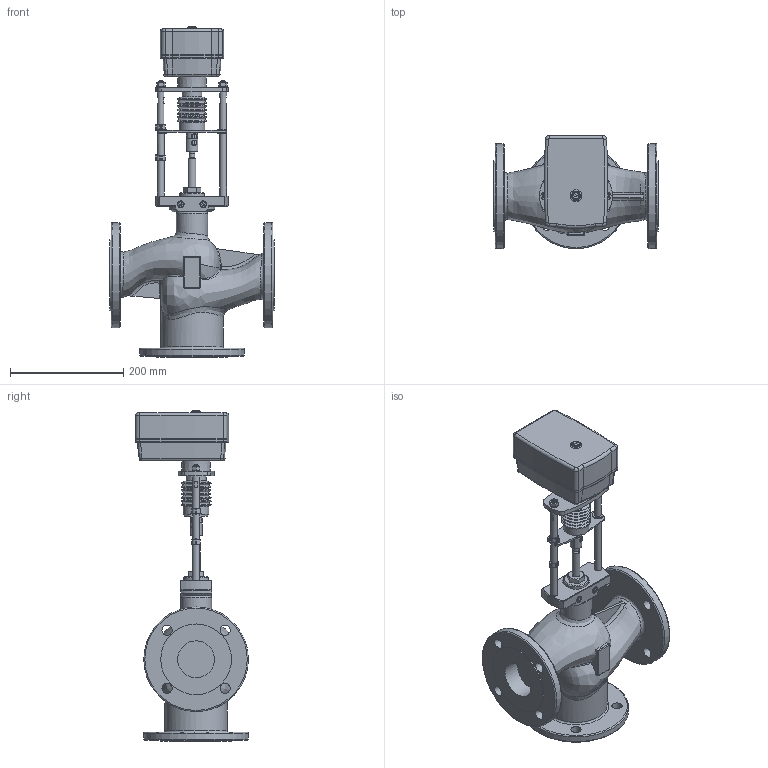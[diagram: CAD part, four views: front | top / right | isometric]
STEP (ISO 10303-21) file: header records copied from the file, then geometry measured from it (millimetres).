
FILE_DESCRIPTION(/* description */ ('Unknown'),/* implementation_level */ '2;1');
FILE_NAME(/* name */ 'TRV-3K-65-63-110',/* time_stamp */ '2023-01-16T14:06:06+03:00',/* author */ ('Unknown'),/* organization */ ('Unknown'),/* preprocessor_version */ 'ST-DEVELOPER v16.7',/* originating_system */ 'DEX',/* authorisation */ $);
FILE_SCHEMA (('AUTOMOTIVE_DESIGN {1 0 10303 214 3 1 1}'));
Length unit declared in the file: millimetre
Products named in the file (3): Êëàïàí DN65-3õ; Äó65-3õ; Ñáîðêà ¹6
Assembly tree (2 placements, depth 2):
  Êëàïàí DN65-3õ
    Äó65-3õ
    Ñáîðêà ¹6
Bounding box: 290 x 199.46 x 584.4 mm (x, y, z)
Volume: 5868352.6 mm3; surface area: 490583.9 mm2
Topology: 2 solids, 7 shells, 661 faces, 1671 edges, 1056 vertices
Faces by surface type: plane 310, cylinder 163, cone 75, bspline 59, torus 46, sphere 8
Full cylindrical faces by diameter (mm): 4.134 x2, 5 x5, 5.2 x5, 6.5 x1, 6.647 x2, 8 x6, 10 x4, 12.002 x4, 13.8 x2, 14 x1, 15 x1, 15.6 x1, 18 x12, 20 x1, 25 x1, 35.098 x1, 44 x2, 44.5 x1, 45.4 x1, 55 x1, 65 x3, 110 x1, 125 x3, 185 x3
Entity records: 27852 total; most frequent: CARTESIAN_POINT 9658, ORIENTED_EDGE 2916, DIRECTION 2884, EDGE_CURVE 1458, AXIS2_PLACEMENT_3D 1150, VERTEX_POINT 986, FACE_BOUND 892, EDGE_LOOP 890
